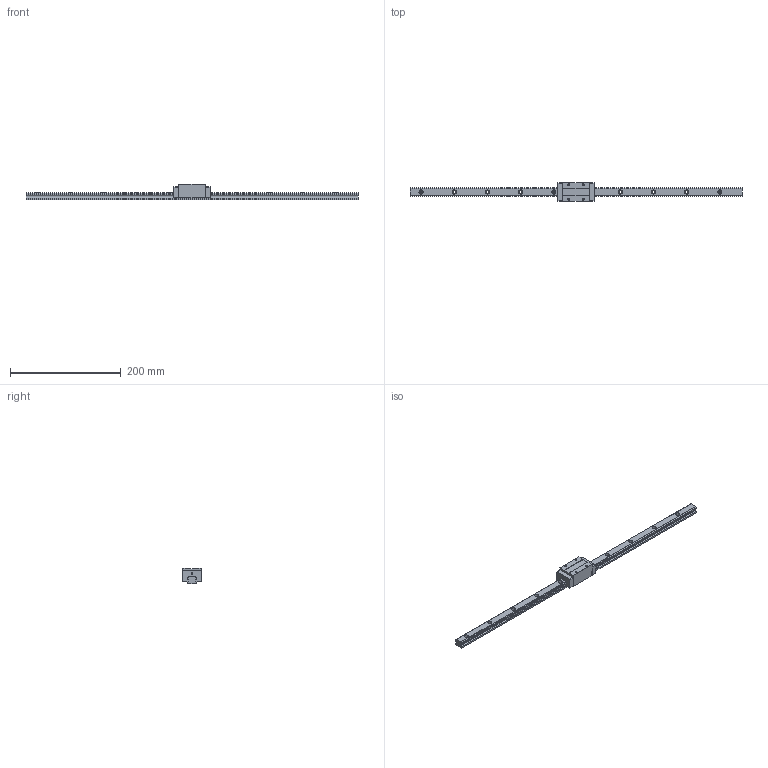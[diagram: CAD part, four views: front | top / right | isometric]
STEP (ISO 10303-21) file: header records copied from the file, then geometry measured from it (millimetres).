
FILE_DESCRIPTION (( 'STEP AP203' ), '1' );
FILE_NAME ('TRH15VL-XN.STEP', '2023-01-18T06:36:38', ( '' ), ( '' ), 'SwSTEP 2.0', 'SolidWorks 2019', '' );
FILE_SCHEMA (( 'CONFIG_CONTROL_DESIGN' ));
Length unit declared in the file: millimetre
Products named in the file (1): TRH15VL-XN
Bounding box: 600 x 34 x 28 mm (x, y, z)
Volume: 143896 mm3; surface area: 49727 mm2
Topology: 4 solids, 4 shells, 172 faces, 440 edges, 284 vertices
Faces by surface type: plane 84, cylinder 72, cone 16
Entity records: 5283 total; most frequent: DIRECTION 930, CARTESIAN_POINT 889, ORIENTED_EDGE 864, EDGE_CURVE 432, AXIS2_PLACEMENT_3D 325, VERTEX_POINT 284, LINE 280, VECTOR 280
